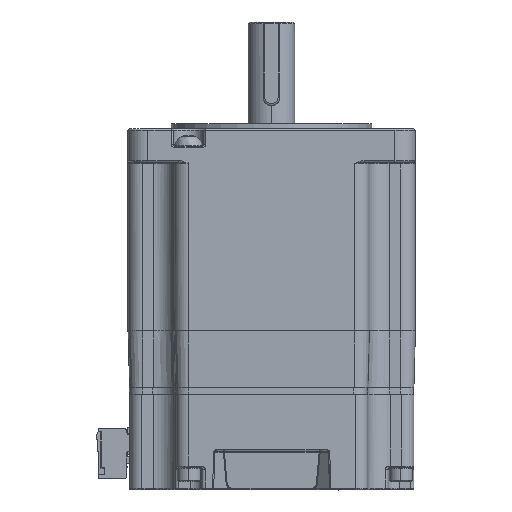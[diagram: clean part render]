
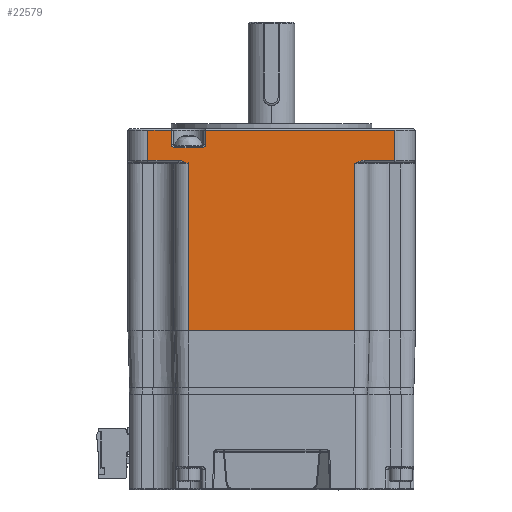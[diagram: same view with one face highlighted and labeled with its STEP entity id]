
A CAD part, top view. The second image highlights one B-rep face of the part: STEP entity #22579.
In plain terms, the highlighted planar face has unit normal (0, 0, 1).
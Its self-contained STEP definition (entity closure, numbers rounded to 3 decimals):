
#1917=DIRECTION('',(-1.,0.,0.));
#1918=VECTOR('',#1917,49.612);
#1919=CARTESIAN_POINT('',(60.691,18.966,109.334));
#1920=LINE('',#1919,#1918);
#1921=CARTESIAN_POINT('',(11.08,68.966,109.329));
#1922=CARTESIAN_POINT('',(10.993,69.009,109.329));
#1923=CARTESIAN_POINT('',(10.814,69.095,109.329));
#1924=CARTESIAN_POINT('',(10.566,69.22,109.329));
#1925=CARTESIAN_POINT('',(10.309,69.344,109.329));
#1926=CARTESIAN_POINT('',(10.134,69.425,109.329));
#1927=CARTESIAN_POINT('',(10.042,69.466,109.329));
#1929=CARTESIAN_POINT('',(10.042,69.466,109.329));
#1930=CARTESIAN_POINT('',(9.811,69.57,109.329));
#1931=CARTESIAN_POINT('',(9.36,69.747,109.329));
#1932=CARTESIAN_POINT('',(8.708,69.925,109.329));
#1933=CARTESIAN_POINT('',(8.303,69.964,109.329));
#1934=CARTESIAN_POINT('',(8.106,69.966,109.329));
#1936=CARTESIAN_POINT('',(6.991,74.766,109.329));
#1937=DIRECTION('',(0.,0.,1.));
#1938=DIRECTION('',(-1.,0.,0.));
#1939=AXIS2_PLACEMENT_3D('',#1936,#1937,#1938);
#1941=CARTESIAN_POINT('',(15.191,74.766,109.329));
#1942=DIRECTION('',(0.,0.,1.));
#1943=DIRECTION('',(0.,-1.,0.));
#1944=AXIS2_PLACEMENT_3D('',#1941,#1942,#1943);
#1946=CARTESIAN_POINT('',(63.657,69.966,109.334));
#1947=CARTESIAN_POINT('',(63.461,69.964,109.334));
#1948=CARTESIAN_POINT('',(63.055,69.925,109.334));
#1949=CARTESIAN_POINT('',(62.404,69.747,109.334));
#1950=CARTESIAN_POINT('',(61.953,69.57,109.334));
#1951=CARTESIAN_POINT('',(61.722,69.466,109.334));
#1953=CARTESIAN_POINT('',(61.722,69.466,109.334));
#1954=CARTESIAN_POINT('',(61.722,69.466,109.334));
#1955=CARTESIAN_POINT('',(61.632,69.426,109.334));
#1956=CARTESIAN_POINT('',(61.46,69.347,109.334));
#1957=CARTESIAN_POINT('',(61.206,69.224,109.334));
#1958=CARTESIAN_POINT('',(60.952,69.098,109.334));
#1959=CARTESIAN_POINT('',(60.78,69.011,109.334));
#1960=CARTESIAN_POINT('',(60.691,68.966,109.334));
#1962=DIRECTION('',(0.,-1.,0.));
#1963=VECTOR('',#1962,50.);
#1964=CARTESIAN_POINT('',(60.691,68.966,109.334));
#1965=LINE('',#1964,#1963);
#1966=DIRECTION('',(-0.021,-1.,0.));
#1967=VECTOR('',#1966,0.5);
#1968=CARTESIAN_POINT('',(11.091,69.466,109.329));
#1969=LINE('',#1968,#1967);
#1970=CARTESIAN_POINT('',(11.08,68.966,109.329));
#1971=CARTESIAN_POINT('',(11.08,69.026,109.329));
#1972=CARTESIAN_POINT('',(11.068,69.144,109.329));
#1973=CARTESIAN_POINT('',(11.079,69.312,109.329));
#1974=CARTESIAN_POINT('',(11.064,69.416,109.329));
#1975=CARTESIAN_POINT('',(11.055,69.466,109.329));
#1977=CARTESIAN_POINT('',(11.055,69.466,109.329));
#1978=CARTESIAN_POINT('',(11.059,69.466,109.329));
#1979=CARTESIAN_POINT('',(11.067,69.466,109.329));
#1980=CARTESIAN_POINT('',(11.079,69.466,109.329));
#1981=CARTESIAN_POINT('',(11.087,69.466,109.329));
#1982=CARTESIAN_POINT('',(11.091,69.466,109.329));
#1997=DIRECTION('',(0.,-1.,0.));
#1998=VECTOR('',#1997,50.);
#1999=CARTESIAN_POINT('',(11.08,68.966,109.329));
#2000=LINE('',#1999,#1998);
#2120=DIRECTION('',(0.,-1.,0.));
#2121=VECTOR('',#2120,9.);
#2122=CARTESIAN_POINT('',(-1.109,78.966,109.328));
#2123=LINE('',#2122,#2121);
#2637=DIRECTION('',(0.,-1.,0.));
#2638=VECTOR('',#2637,4.2);
#2639=CARTESIAN_POINT('',(16.191,78.966,109.33));
#2640=LINE('',#2639,#2638);
#2660=DIRECTION('',(-1.,0.,0.));
#2661=VECTOR('',#2660,8.2);
#2662=CARTESIAN_POINT('',(15.191,73.766,109.329));
#2663=LINE('',#2662,#2661);
#2687=DIRECTION('',(0.,1.,0.));
#2688=VECTOR('',#2687,4.2);
#2689=CARTESIAN_POINT('',(5.991,74.766,109.329));
#2690=LINE('',#2689,#2688);
#2704=DIRECTION('',(1.,0.,0.));
#2705=VECTOR('',#2704,7.1);
#2706=CARTESIAN_POINT('',(-1.109,78.966,109.328));
#2707=LINE('',#2706,#2705);
#3294=DIRECTION('',(0.,1.,0.));
#3295=VECTOR('',#3294,9.);
#3296=CARTESIAN_POINT('',(72.891,69.966,109.335));
#3297=LINE('',#3296,#3295);
#3456=DIRECTION('',(1.,0.,0.));
#3457=VECTOR('',#3456,9.234);
#3458=CARTESIAN_POINT('',(63.657,69.966,109.334));
#3459=LINE('',#3458,#3457);
#3513=DIRECTION('',(1.,0.,0.));
#3514=VECTOR('',#3513,56.7);
#3515=CARTESIAN_POINT('',(16.191,78.966,109.33));
#3516=LINE('',#3515,#3514);
#6008=DIRECTION('',(1.,0.,0.));
#6009=VECTOR('',#6008,9.216);
#6010=CARTESIAN_POINT('',(-1.109,69.966,109.328));
#6011=LINE('',#6010,#6009);
#18796=CARTESIAN_POINT('',(11.091,68.966,109.329));
#18797=VERTEX_POINT('',#18796);
#18799=VERTEX_POINT('',#1977);
#18800=VERTEX_POINT('',#1982);
#18801=CARTESIAN_POINT('',(-1.109,78.966,
109.328));
#18802=CARTESIAN_POINT('',(5.991,78.966,109.329));
#18803=VERTEX_POINT('',#18801);
#18804=VERTEX_POINT('',#18802);
#18805=CARTESIAN_POINT('',(-1.109,69.966,
109.328));
#18806=VERTEX_POINT('',#18805);
#18807=CARTESIAN_POINT('',(8.106,69.966,109.329));
#18808=VERTEX_POINT('',#18807);
#18809=VERTEX_POINT('',#1929);
#18810=VERTEX_POINT('',#1953);
#18811=VERTEX_POINT('',#1960);
#18812=VERTEX_POINT('',#1946);
#18813=CARTESIAN_POINT('',(72.891,69.966,109.335));
#18814=VERTEX_POINT('',#18813);
#18815=CARTESIAN_POINT('',(72.891,78.966,109.335));
#18816=VERTEX_POINT('',#18815);
#18817=CARTESIAN_POINT('',(16.191,78.966,109.33));
#18818=VERTEX_POINT('',#18817);
#18819=CARTESIAN_POINT('',(16.191,74.766,109.33));
#18820=VERTEX_POINT('',#18819);
#18821=CARTESIAN_POINT('',(15.191,73.766,109.329));
#18822=VERTEX_POINT('',#18821);
#18823=CARTESIAN_POINT('',(6.991,73.766,109.329));
#18824=VERTEX_POINT('',#18823);
#18825=CARTESIAN_POINT('',(5.991,74.766,109.329));
#18826=VERTEX_POINT('',#18825);
#19214=CARTESIAN_POINT('',(11.072,18.966,109.329));
#19216=VERTEX_POINT('',#19214);
#19217=CARTESIAN_POINT('',(60.691,18.966,109.334));
#19218=VERTEX_POINT('',#19217);
#22532=CARTESIAN_POINT('',(35.891,70.716,109.332));
#22533=DIRECTION('',(0.,0.,1.));
#22534=DIRECTION('',(-1.,0.,0.));
#22535=AXIS2_PLACEMENT_3D('',#22532,#22533,#22534);
#22536=PLANE('',#22535);
#22537=ORIENTED_EDGE('',*,*,#21292,.T.);
#22539=ORIENTED_EDGE('',*,*,#22538,.F.);
#22541=ORIENTED_EDGE('',*,*,#22540,.F.);
#22543=ORIENTED_EDGE('',*,*,#22542,.F.);
#22545=ORIENTED_EDGE('',*,*,#22544,.F.);
#22547=ORIENTED_EDGE('',*,*,#22546,.T.);
#22549=ORIENTED_EDGE('',*,*,#22548,.T.);
#22551=ORIENTED_EDGE('',*,*,#22550,.F.);
#22553=ORIENTED_EDGE('',*,*,#22552,.F.);
#22555=ORIENTED_EDGE('',*,*,#22554,.T.);
#22557=ORIENTED_EDGE('',*,*,#22556,.F.);
#22559=ORIENTED_EDGE('',*,*,#22558,.T.);
#22561=ORIENTED_EDGE('',*,*,#22560,.F.);
#22563=ORIENTED_EDGE('',*,*,#22562,.T.);
#22565=ORIENTED_EDGE('',*,*,#22564,.F.);
#22567=ORIENTED_EDGE('',*,*,#22566,.T.);
#22569=ORIENTED_EDGE('',*,*,#22568,.F.);
#22571=ORIENTED_EDGE('',*,*,#22570,.F.);
#22573=ORIENTED_EDGE('',*,*,#22572,.T.);
#22575=ORIENTED_EDGE('',*,*,#22574,.T.);
#22576=ORIENTED_EDGE('',*,*,#22517,.T.);
#22577=EDGE_LOOP('',(#22537,#22539,#22541,#22543,#22545,#22547,#22549,#22551,
#22553,#22555,#22557,#22559,#22561,#22563,#22565,#22567,#22569,#22571,#22573,
#22575,#22576));
#22578=FACE_OUTER_BOUND('',#22577,.F.);
#22579=ADVANCED_FACE('',(#22578),#22536,.T.);
#1928=B_SPLINE_CURVE_WITH_KNOTS('',3,(#1921,#1922,#1923,#1924,#1925,#1926,
#1927),.UNSPECIFIED.,.F.,.F.,(4,1,1,1,4),(0.,0.256,
0.496,0.738,1.),.UNSPECIFIED.);
#1935=B_SPLINE_CURVE_WITH_KNOTS('',3,(#1929,#1930,#1931,#1932,#1933,#1934),
.UNSPECIFIED.,.F.,.F.,(4,1,1,4),(0.,0.333,0.667,1.),
.UNSPECIFIED.);
#1940=CIRCLE('',#1939,1.);
#1945=CIRCLE('',#1944,1.);
#1952=B_SPLINE_CURVE_WITH_KNOTS('',3,(#1946,#1947,#1948,#1949,#1950,#1951),
.UNSPECIFIED.,.F.,.F.,(4,1,1,4),(0.,0.333,0.667,1.),
.UNSPECIFIED.);
#1961=B_SPLINE_CURVE_WITH_KNOTS('',3,(#1953,#1954,#1955,#1956,#1957,#1958,#1959,
#1960),.UNSPECIFIED.,.F.,.F.,(4,1,1,1,1,4),(0.,0.,
0.255,0.495,0.737,1.),.UNSPECIFIED.);
#1976=B_SPLINE_CURVE_WITH_KNOTS('',3,(#1970,#1971,#1972,#1973,#1974,#1975),
.UNSPECIFIED.,.F.,.F.,(4,1,1,4),(0.,0.333,0.667,1.),
.UNSPECIFIED.);
#1983=B_SPLINE_CURVE_WITH_KNOTS('',3,(#1977,#1978,#1979,#1980,#1981,#1982),
.UNSPECIFIED.,.F.,.F.,(4,1,1,4),(0.,0.333,0.667,1.),
.UNSPECIFIED.);
#21292=EDGE_CURVE('',#19218,#19216,#1920,.T.);
#22517=EDGE_CURVE('',#18811,#19218,#1965,.T.);
#22538=EDGE_CURVE('',#18797,#19216,#2000,.T.);
#22540=EDGE_CURVE('',#18800,#18797,#1969,.T.);
#22542=EDGE_CURVE('',#18799,#18800,#1983,.T.);
#22544=EDGE_CURVE('',#18797,#18799,#1976,.T.);
#22546=EDGE_CURVE('',#18797,#18809,#1928,.T.);
#22548=EDGE_CURVE('',#18809,#18808,#1935,.T.);
#22550=EDGE_CURVE('',#18806,#18808,#6011,.T.);
#22552=EDGE_CURVE('',#18803,#18806,#2123,.T.);
#22554=EDGE_CURVE('',#18803,#18804,#2707,.T.);
#22556=EDGE_CURVE('',#18826,#18804,#2690,.T.);
#22558=EDGE_CURVE('',#18826,#18824,#1940,.T.);
#22560=EDGE_CURVE('',#18822,#18824,#2663,.T.);
#22562=EDGE_CURVE('',#18822,#18820,#1945,.T.);
#22564=EDGE_CURVE('',#18818,#18820,#2640,.T.);
#22566=EDGE_CURVE('',#18818,#18816,#3516,.T.);
#22568=EDGE_CURVE('',#18814,#18816,#3297,.T.);
#22570=EDGE_CURVE('',#18812,#18814,#3459,.T.);
#22572=EDGE_CURVE('',#18812,#18810,#1952,.T.);
#22574=EDGE_CURVE('',#18810,#18811,#1961,.T.);
